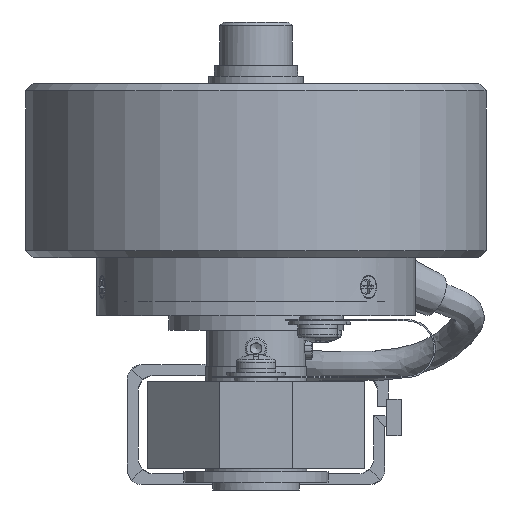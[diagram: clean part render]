
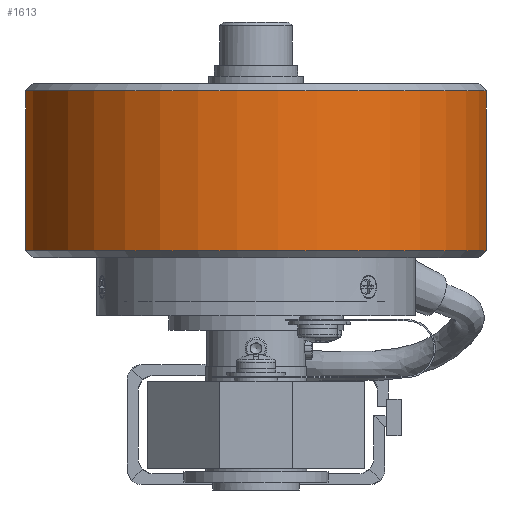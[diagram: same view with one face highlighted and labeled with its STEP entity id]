
A CAD part, left-side view. The second image highlights one B-rep face of the part: STEP entity #1613.
In plain terms, the highlighted cylindrical face has radius 31.835 mm (diameter 63.67 mm), a full revolution.
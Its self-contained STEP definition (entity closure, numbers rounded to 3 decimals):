
#1613=ADVANCED_FACE('',(#2670,#2671),#2672,.T.);
#2670=FACE_OUTER_BOUND('',#4878,.T.);
#2671=FACE_OUTER_BOUND('',#4879,.T.);
#2672=CYLINDRICAL_SURFACE('',#4880,31.835);
#4878=EDGE_LOOP('',(#7012));
#4879=EDGE_LOOP('',(#7013));
#4880=AXIS2_PLACEMENT_3D('',#7014,#7015,#7016);
#7012=ORIENTED_EDGE('',*,*,#9070,.T.);
#7013=ORIENTED_EDGE('',*,*,#9067,.T.);
#7014=CARTESIAN_POINT('',(0.,0.,8.0));
#7015=DIRECTION('',(0.,0.,-1.0));
#7016=DIRECTION('',(-0.568,-0.823,0.));
#9067=EDGE_CURVE('',#10306,#10306,#10307,.T.);
#9070=EDGE_CURVE('',#10311,#10311,#10312,.T.);
#10306=VERTEX_POINT('',#12210);
#10307=CIRCLE('',#12211,31.835);
#10311=VERTEX_POINT('',#12215);
#10312=CIRCLE('',#12216,31.835);
#12210=CARTESIAN_POINT('',(-18.096,-26.191,31.0));
#12211=AXIS2_PLACEMENT_3D('',#14742,#14743,#14744);
#12215=CARTESIAN_POINT('',(18.096,26.191,9.0));
#12216=AXIS2_PLACEMENT_3D('',#14748,#14749,#14750);
#14742=CARTESIAN_POINT('',(0.,0.,31.0));
#14743=DIRECTION('',(0.,0.,-1.0));
#14744=DIRECTION('',(-0.568,-0.823,0.));
#14748=CARTESIAN_POINT('',(0.,0.,9.0));
#14749=DIRECTION('',(0.,0.,1.0));
#14750=DIRECTION('',(0.568,0.823,0.));
